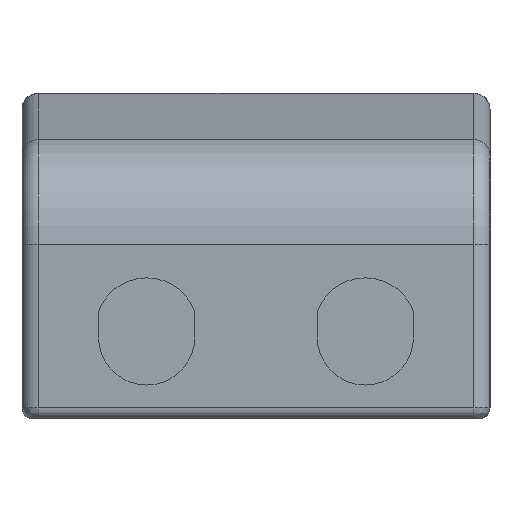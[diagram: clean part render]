
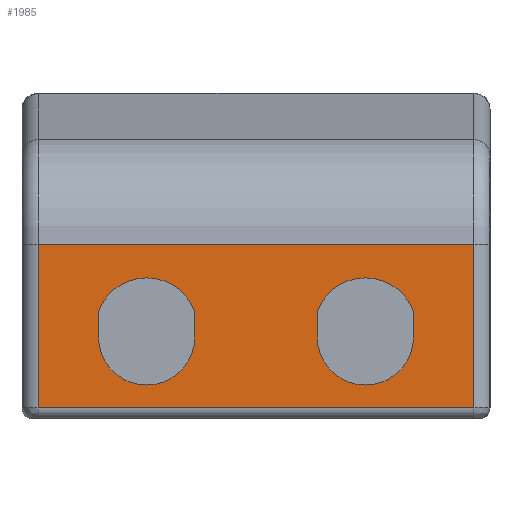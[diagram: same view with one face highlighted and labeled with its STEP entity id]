
A CAD part, front view. The second image highlights one B-rep face of the part: STEP entity #1985.
In plain terms, the highlighted planar face has unit normal (0, -1, 0) as drawn and (0, 0, 1) by its records, which use the part's own axes.
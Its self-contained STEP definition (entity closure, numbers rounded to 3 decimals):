
#432=CARTESIAN_POINT('',(-10.,8.2,30.));
#433=DIRECTION('',(0.,0.,1.));
#434=DIRECTION('',(0.936,0.352,0.));
#435=AXIS2_PLACEMENT_3D('',#432,#433,#434);
#437=DIRECTION('',(0.,-1.,0.));
#438=VECTOR('',#437,2.352);
#439=CARTESIAN_POINT('',(-14.4,9.852,30.));
#440=LINE('',#439,#438);
#441=CARTESIAN_POINT('',(-10.,7.5,30.));
#442=DIRECTION('',(0.,0.,1.));
#443=DIRECTION('',(-1.,0.,0.));
#444=AXIS2_PLACEMENT_3D('',#441,#442,#443);
#446=DIRECTION('',(0.,1.,0.));
#447=VECTOR('',#446,2.352);
#448=CARTESIAN_POINT('',(-5.6,7.5,30.));
#449=LINE('',#448,#447);
#450=CARTESIAN_POINT('',(10.,8.2,30.));
#451=DIRECTION('',(0.,0.,1.));
#452=DIRECTION('',(0.936,0.352,0.));
#453=AXIS2_PLACEMENT_3D('',#450,#451,#452);
#455=DIRECTION('',(0.,-1.,0.));
#456=VECTOR('',#455,2.352);
#457=CARTESIAN_POINT('',(5.6,9.852,30.));
#458=LINE('',#457,#456);
#459=CARTESIAN_POINT('',(10.,7.5,30.));
#460=DIRECTION('',(0.,0.,1.));
#461=DIRECTION('',(-1.,0.,0.));
#462=AXIS2_PLACEMENT_3D('',#459,#460,#461);
#464=DIRECTION('',(0.,1.,0.));
#465=VECTOR('',#464,2.352);
#466=CARTESIAN_POINT('',(14.4,7.5,30.));
#467=LINE('',#466,#465);
#468=DIRECTION('',(1.,0.,0.));
#469=VECTOR('',#468,39.8);
#470=CARTESIAN_POINT('',(-19.9,1.,30.));
#471=LINE('',#470,#469);
#472=DIRECTION('',(0.,1.,0.));
#473=VECTOR('',#472,14.957);
#474=CARTESIAN_POINT('',(-19.9,1.,30.));
#475=LINE('',#474,#473);
#476=DIRECTION('',(1.,0.,0.));
#477=VECTOR('',#476,39.8);
#478=CARTESIAN_POINT('',(-19.9,15.957,30.));
#479=LINE('',#478,#477);
#480=DIRECTION('',(0.,-1.,0.));
#481=VECTOR('',#480,14.957);
#482=CARTESIAN_POINT('',(19.9,15.957,30.));
#483=LINE('',#482,#481);
#1281=CARTESIAN_POINT('',(-5.6,9.852,30.));
#1282=CARTESIAN_POINT('',(-14.4,9.852,30.));
#1283=VERTEX_POINT('',#1281);
#1284=VERTEX_POINT('',#1282);
#1285=CARTESIAN_POINT('',(-14.4,7.5,30.));
#1286=VERTEX_POINT('',#1285);
#1287=CARTESIAN_POINT('',(-5.6,7.5,30.));
#1288=VERTEX_POINT('',#1287);
#1289=CARTESIAN_POINT('',(14.4,9.852,30.));
#1290=CARTESIAN_POINT('',(5.6,9.852,30.));
#1291=VERTEX_POINT('',#1289);
#1292=VERTEX_POINT('',#1290);
#1293=CARTESIAN_POINT('',(5.6,7.5,30.));
#1294=VERTEX_POINT('',#1293);
#1295=CARTESIAN_POINT('',(14.4,7.5,30.));
#1296=VERTEX_POINT('',#1295);
#1348=CARTESIAN_POINT('',(19.9,15.957,30.));
#1350=VERTEX_POINT('',#1348);
#1367=CARTESIAN_POINT('',(-19.9,15.957,30.));
#1369=VERTEX_POINT('',#1367);
#1427=CARTESIAN_POINT('',(19.9,1.,30.));
#1428=VERTEX_POINT('',#1427);
#1431=CARTESIAN_POINT('',(-19.9,1.,30.));
#1432=VERTEX_POINT('',#1431);
#1952=CARTESIAN_POINT('',(-21.4,15.957,30.));
#1953=DIRECTION('',(0.,0.,1.));
#1954=DIRECTION('',(0.,-1.,0.));
#1955=AXIS2_PLACEMENT_3D('',#1952,#1953,#1954);
#1956=PLANE('',#1955);
#1957=ORIENTED_EDGE('',*,*,#1943,.F.);
#1958=ORIENTED_EDGE('',*,*,#1573,.T.);
#1960=ORIENTED_EDGE('',*,*,#1959,.T.);
#1962=ORIENTED_EDGE('',*,*,#1961,.T.);
#1963=EDGE_LOOP('',(#1957,#1958,#1960,#1962));
#1964=FACE_OUTER_BOUND('',#1963,.F.);
#1966=ORIENTED_EDGE('',*,*,#1965,.T.);
#1968=ORIENTED_EDGE('',*,*,#1967,.T.);
#1970=ORIENTED_EDGE('',*,*,#1969,.T.);
#1972=ORIENTED_EDGE('',*,*,#1971,.T.);
#1973=EDGE_LOOP('',(#1966,#1968,#1970,#1972));
#1974=FACE_BOUND('',#1973,.F.);
#1976=ORIENTED_EDGE('',*,*,#1975,.T.);
#1978=ORIENTED_EDGE('',*,*,#1977,.T.);
#1980=ORIENTED_EDGE('',*,*,#1979,.T.);
#1982=ORIENTED_EDGE('',*,*,#1981,.T.);
#1983=EDGE_LOOP('',(#1976,#1978,#1980,#1982));
#1984=FACE_BOUND('',#1983,.F.);
#436=CIRCLE('',#435,4.7);
#445=CIRCLE('',#444,4.4);
#454=CIRCLE('',#453,4.7);
#463=CIRCLE('',#462,4.4);
#1573=EDGE_CURVE('',#1432,#1369,#475,.T.);
#1943=EDGE_CURVE('',#1432,#1428,#471,.T.);
#1959=EDGE_CURVE('',#1369,#1350,#479,.T.);
#1961=EDGE_CURVE('',#1350,#1428,#483,.T.);
#1965=EDGE_CURVE('',#1291,#1292,#454,.T.);
#1967=EDGE_CURVE('',#1292,#1294,#458,.T.);
#1969=EDGE_CURVE('',#1294,#1296,#463,.T.);
#1971=EDGE_CURVE('',#1296,#1291,#467,.T.);
#1975=EDGE_CURVE('',#1283,#1284,#436,.T.);
#1977=EDGE_CURVE('',#1284,#1286,#440,.T.);
#1979=EDGE_CURVE('',#1286,#1288,#445,.T.);
#1981=EDGE_CURVE('',#1288,#1283,#449,.T.);
#1985=ADVANCED_FACE('',(#1964,#1974,#1984),#1956,.T.);
